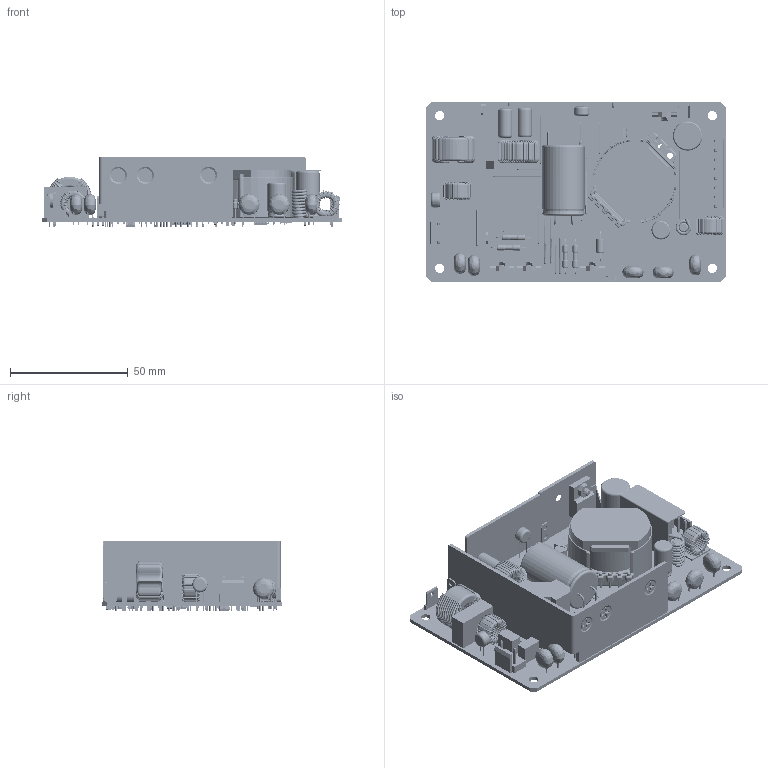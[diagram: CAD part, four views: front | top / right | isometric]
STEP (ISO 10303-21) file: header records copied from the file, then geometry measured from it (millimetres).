
FILE_DESCRIPTION((''),'2;1');
FILE_NAME('PJT-100WBAX_ASM','2021-09-03T',('ANFORNEE.LEE'),(''),'PRO/ENGINEER BY PARAMETRIC TECHNOLOGY CORPORATION, 2010280','PRO/ENGINEER BY PARAMETRIC TECHNOLOGY CORPORATION, 2010280','');
FILE_SCHEMA(('CONFIG_CONTROL_DESIGN'));
Products named in the file (95): CY2; IC101; D31; R103; IC31; D3; R9; J12; J7; J8; J5; J2; D1_AF0; R8_AF3; R8_AF2; R8_AF1; R8_AF0; IC36_AF0; C31; NUT; 3105320100-L8; NTC32_AF0; NTC32; INSULATOR; MANIFOLD_SOLID_BREP_6674; MANIFOLD_SOLID_BREP_6675; MANIFOLD_SOLID_BREP_6676; L101_ASM; B8P-VH_LF_SN; B2P3-VH_LF_SN; MANIFOLD_SOLID_BREP_6679; MANIFOLD_SOLID_BREP_6680; MANIFOLD_SOLID_BREP_6681; MANIFOLD_SOLID_BREP_6682; MANIFOLD_SOLID_BREP_6683; MANIFOLD_SOLID_BREP_6684; MANIFOLD_SOLID_BREP_6685; MANIFOLD_SOLID_BREP_6686; MANIFOLD_SOLID_BREP_6687; MANIFOLD_SOLID_BREP_6688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
Assembly tree (122 placements, depth 5):
  PJT-100WBAX_ASM
    MDS-100APS_STP_ASM
      CY2  x5
      IC101  x2
      D31
      R103
      IC31
      D3
      R9
      J12  x2
      J7  x3
      J8  x3
      J5  x4
      J2
      D1_AF0
      R8_AF3
      R8_AF2
      R8_AF1
      R8_AF0
      IC36_AF0
      C31
      NUT  x4
      3105320100-L8  x4
      NTC32_AF0
      NTC32
      INSULATOR
      L101_ASM
        MANIFOLD_SOLID_BREP_6674
        MANIFOLD_SOLID_BREP_6675
        MANIFOLD_SOLID_BREP_6676
      B8P-VH_LF_SN
      B2P3-VH_LF_SN
      FL101_ASM
        MANIFOLD_SOLID_BREP_6679
        MANIFOLD_SOLID_BREP_6680
        MANIFOLD_SOLID_BREP_6681
        MANIFOLD_SOLID_BREP_6682
        MANIFOLD_SOLID_BREP_6683
        MANIFOLD_SOLID_BREP_6684
        MANIFOLD_SOLID_BREP_6685
        MANIFOLD_SOLID_BREP_6686
        MANIFOLD_SOLID_BREP_6687
        MANIFOLD_SOLID_BREP_6688
        MANIFOLD_SOLID_BREP_6689
        MANIFOLD_SOLID_BREP_6690
        MANIFOLD_SOLID_BREP_6691
        MANIFOLD_SOLID_BREP_6692
        MANIFOLD_SOLID_BREP_6693
      C2  x2
      FL1_ASM
        MANIFOLD_SOLID_BREP_6695
        MANIFOLD_SOLID_BREP_6696
        MANIFOLD_SOLID_BREP_6697
        MANIFOLD_SOLID_BREP_6698
        MANIFOLD_SOLID_BREP_6699
        MANIFOLD_SOLID_BREP_6700
        MANIFOLD_SOLID_BREP_6701
        MANIFOLD_SOLID_BREP_6702
        MANIFOLD_SOLID_BREP_6703
        MANIFOLD_SOLID_BREP_6704
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Bounding box: 127 x 76.2 x 30.1 mm (x, y, z)
Volume: 76148.3 mm3; surface area: 77141.5 mm2
Topology: 111 solids, 113 shells, 5734 faces, 14786 edges, 9034 vertices
Faces by surface type: cylinder 2331, torus 1589, plane 1494, bspline 140, sphere 96, cone 74, revolution 10
Entity records: 175143 total; most frequent: CARTESIAN_POINT 49473, DIRECTION 28721, ORIENTED_EDGE 25387, EDGE_CURVE 12716, AXIS2_PLACEMENT_3D 12154, VERTEX_POINT 7817, CIRCLE 6946, EDGE_LOOP 5094
